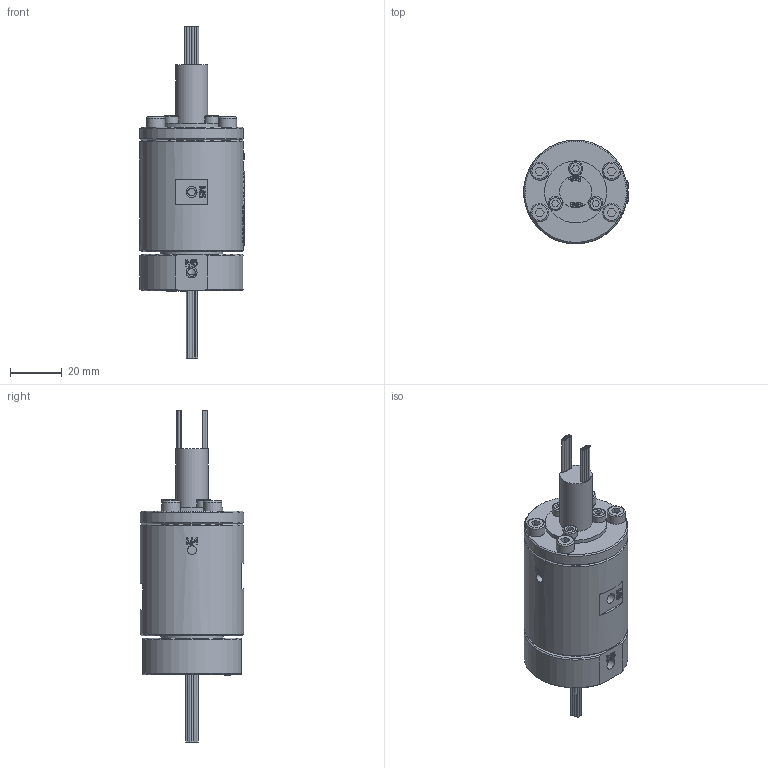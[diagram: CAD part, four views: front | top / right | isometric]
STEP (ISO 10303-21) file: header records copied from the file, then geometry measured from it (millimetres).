
FILE_DESCRIPTION(/* description */ (''),/* implementation_level */ '2;1');
FILE_NAME(/* name */ 'YQ02005-18M.stp',/* time_stamp */ '2025-09-01T09:49:04+08:00',/* author */ (''),/* organization */ (''),/* preprocessor_version */ 'ST-DEVELOPER v16.7',/* originating_system */ 'SIEMENS PLM Software NX 12.0',/* authorisation */ '');
FILE_SCHEMA (('AUTOMOTIVE_DESIGN { 1 0 10303 214 3 1 1 1 }'));
Products named in the file (1): Admi1DF097DFvvs2
Bounding box: 40.7 x 40 x 128 mm (x, y, z)
Volume: 81147.3 mm3; surface area: 17668.5 mm2
Topology: 1 solids, 9 shells, 1207 faces, 3199 edges, 2134 vertices
Faces by surface type: extrusion 524, plane 506, cylinder 104, bspline 45, cone 21, torus 7
Full cylindrical faces by diameter (mm): 0.8 x37, 3 x7, 3.4 x9, 4 x6, 4.1 x2, 4.2 x6, 5 x1, 5.5 x3, 6 x1, 7 x4, 12.4 x1, 23.9 x1, 24 x1, 32 x1, 40 x2
Entity records: 45691 total; most frequent: CARTESIAN_POINT 20393, ORIENTED_EDGE 6066, DIRECTION 3083, EDGE_CURVE 3033, B_SPLINE_CURVE_WITH_KNOTS 2639, VERTEX_POINT 2082, EDGE_LOOP 1461, ADVANCED_FACE 1207
